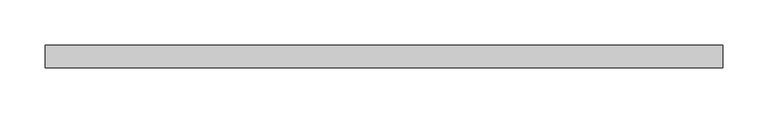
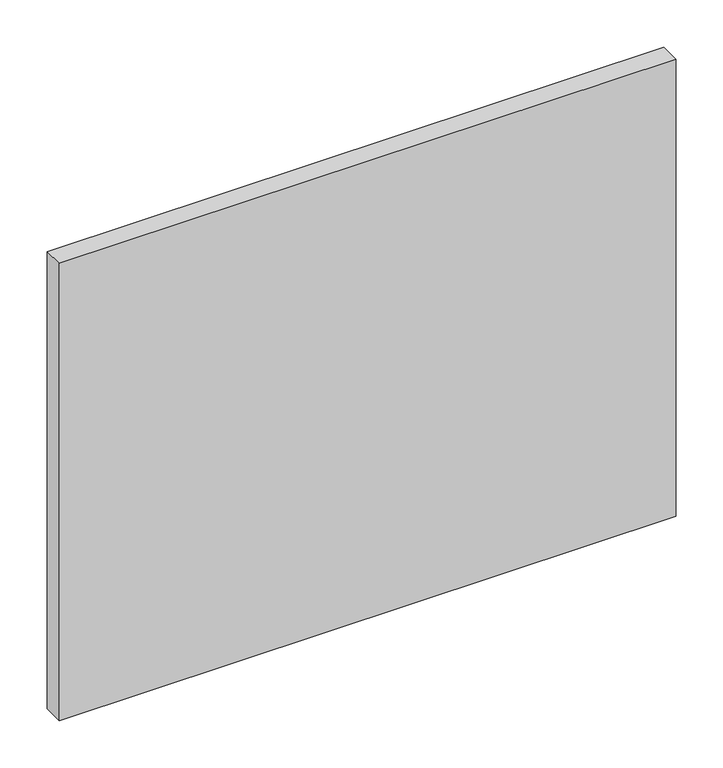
"""IFC4 building model written with IfcOpenShell, lengths in millimetres: plate geometry, 系统嵌板 : 玻璃."""

from ifc_helpers import new_model, si_unit, origin, origin_with_axes, place, context, project, spatial, polyline, outline, extrude, source, transform, mapped, element, save


def plate_46e1f618(model_context):
    return source(origin(), model_context, "Body", "SweptSolid", [
        extrude(outline(polyline([(376.485496, -12.5), (-376.485496, -12.5), (-376.485496, 12.5), (376.485496, 12.5), (376.485496, -12.5)])), origin_with_axes(), (0.0, 0.0, 1.0), 590.0),
    ])


if __name__ == "__main__":
    model = new_model("IFC4")
    model_context = context("Model", 3, world=origin())
    ifc_project = project(units=[si_unit("LENGTHUNIT", "METRE", prefix="MILLI")], contexts=[model_context])
    site = spatial("IfcSite", under=ifc_project)
    building = spatial("IfcBuilding", under=site)
    placement = place(None, origin())
    plate_shape = plate_46e1f618(model_context)
    element("IfcPlate", 1, ObjectType="系统嵌板 : 玻璃", at=placement, inside=building, context=model_context, shape_type="MappedRepresentation", body=[
        mapped(plate_shape, transform((0.0, 0.0, 0.0), x_axis=(1.0, 0.0, 0.0), y_axis=(0.0, 1.0, 0.0), z_axis=(0.0, 0.0, 1.0))),
    ])
    save(model, "model.ifc")
